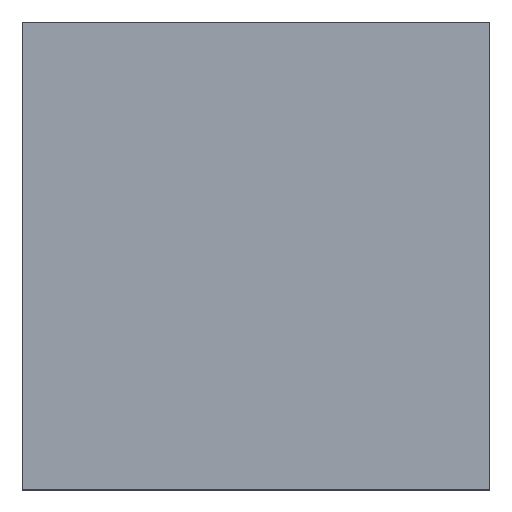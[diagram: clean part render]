
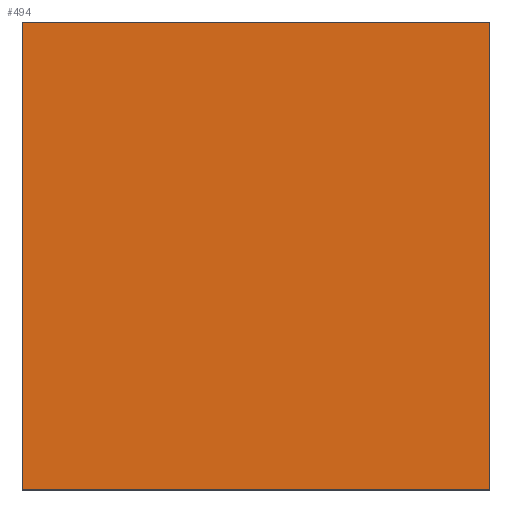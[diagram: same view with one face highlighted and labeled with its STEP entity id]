
A CAD part, top view. The second image highlights one B-rep face of the part: STEP entity #494.
In plain terms, the highlighted planar face has unit normal (0, 0, 1).
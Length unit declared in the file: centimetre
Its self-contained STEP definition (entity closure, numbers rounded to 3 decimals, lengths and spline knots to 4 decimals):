
#13 = EDGE_CURVE ( 'NONE', #246, #208, #314, .T. ) ;
#26 = VECTOR ( 'NONE', #460, 100. ) ;
#46 = CARTESIAN_POINT ( 'NONE',  ( 0., 1000., 1000. ) ) ;
#50 = VECTOR ( 'NONE', #385, 100. ) ;
#59 = ORIENTED_EDGE ( 'NONE', *, *, #405, .T. ) ;
#60 = CARTESIAN_POINT ( 'NONE',  ( 1000., 1000., 1000. ) ) ;
#87 = EDGE_CURVE ( 'NONE', #208, #381, #173, .T. ) ;
#109 = DIRECTION ( 'NONE',  ( 1., 0., 0. ) ) ;
#154 = LINE ( 'NONE', #306, #50 ) ;
#157 = VECTOR ( 'NONE', #432, 100. ) ;
#173 = LINE ( 'NONE', #250, #335 ) ;
#180 = CARTESIAN_POINT ( 'NONE',  ( 1000., 0., 1000. ) ) ;
#208 = VERTEX_POINT ( 'NONE', #291 ) ;
#212 = ORIENTED_EDGE ( 'NONE', *, *, #13, .T. ) ;
#226 = PLANE ( 'NONE',  #384 ) ;
#246 = VERTEX_POINT ( 'NONE', #180 ) ;
#249 = EDGE_LOOP ( 'NONE', ( #437, #59, #212, #478 ) ) ;
#250 = CARTESIAN_POINT ( 'NONE',  ( 0., 1000., 1000. ) ) ;
#264 = CARTESIAN_POINT ( 'NONE',  ( 0., 0., 1000. ) ) ;
#291 = CARTESIAN_POINT ( 'NONE',  ( 1000., 1000., 1000. ) ) ;
#304 = LINE ( 'NONE', #350, #26 ) ;
#306 = CARTESIAN_POINT ( 'NONE',  ( 0., 1000., 1000. ) ) ;
#309 = CARTESIAN_POINT ( 'NONE',  ( 0., 0., 1000. ) ) ;
#314 = LINE ( 'NONE', #60, #157 ) ;
#335 = VECTOR ( 'NONE', #355, 100. ) ;
#350 = CARTESIAN_POINT ( 'NONE',  ( 0., 0., 1000. ) ) ;
#355 = DIRECTION ( 'NONE',  ( -1., 0., 0. ) ) ;
#357 = VERTEX_POINT ( 'NONE', #309 ) ;
#381 = VERTEX_POINT ( 'NONE', #46 ) ;
#384 = AXIS2_PLACEMENT_3D ( 'NONE', #264, #487, #109 ) ;
#385 = DIRECTION ( 'NONE',  ( 0., -1., 0. ) ) ;
#388 = EDGE_CURVE ( 'NONE', #381, #357, #154, .T. ) ;
#405 = EDGE_CURVE ( 'NONE', #357, #246, #304, .T. ) ;
#432 = DIRECTION ( 'NONE',  ( 0., 1., 0. ) ) ;
#437 = ORIENTED_EDGE ( 'NONE', *, *, #388, .T. ) ;
#460 = DIRECTION ( 'NONE',  ( 1., 0., 0. ) ) ;
#478 = ORIENTED_EDGE ( 'NONE', *, *, #87, .T. ) ;
#487 = DIRECTION ( 'NONE',  ( 0., 0., 1. ) ) ;
#494 = ADVANCED_FACE ( 'NONE', ( #495 ), #226, .T. ) ;
#495 = FACE_OUTER_BOUND ( 'NONE', #249, .T. ) ;
